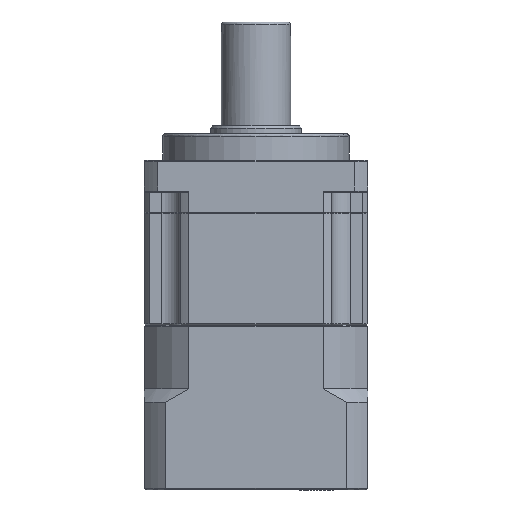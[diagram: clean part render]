
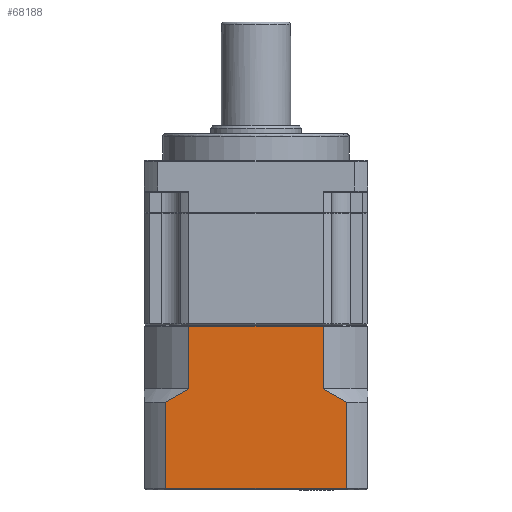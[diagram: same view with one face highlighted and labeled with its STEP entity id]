
A CAD part, front view. The second image highlights one B-rep face of the part: STEP entity #68188.
In plain terms, the highlighted planar face has unit normal (0, -1, 0).
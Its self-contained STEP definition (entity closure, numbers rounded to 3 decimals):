
#127 = EDGE_CURVE ( 'NONE', #10218, #90019, #10629, .T. ) ;
#2209 = CARTESIAN_POINT ( 'NONE',  ( 10.116, -1.757, 15.691 ) ) ;
#4229 = DIRECTION ( 'NONE',  ( -1., 0., 0. ) ) ;
#5167 = ORIENTED_EDGE ( 'NONE', *, *, #94754, .F. ) ;
#8251 = VECTOR ( 'NONE', #38600, 1000. ) ;
#10218 = VERTEX_POINT ( 'NONE', #73469 ) ;
#10629 = LINE ( 'NONE', #70481, #28095 ) ;
#10805 = DIRECTION ( 'NONE',  ( 0., 1., 0. ) ) ;
#11713 = CARTESIAN_POINT ( 'NONE',  ( 4.669, -1.757, -1.399 ) ) ;
#13759 = DIRECTION ( 'NONE',  ( -1., 0., 0. ) ) ;
#17587 = ORIENTED_EDGE ( 'NONE', *, *, #127, .F. ) ;
#19817 = CARTESIAN_POINT ( 'NONE',  ( 38.288, -1.757, 17.301 ) ) ;
#21207 = CARTESIAN_POINT ( 'NONE',  ( 8.698, -1.757, 14.801 ) ) ;
#25040 = ORIENTED_EDGE ( 'NONE', *, *, #73387, .F. ) ;
#25451 = PLANE ( 'NONE',  #26197 ) ;
#26197 = AXIS2_PLACEMENT_3D ( 'NONE', #55592, #10805, #63151 ) ;
#28095 = VECTOR ( 'NONE', #71763, 1000. ) ;
#31077 = CARTESIAN_POINT ( 'NONE',  ( 8.698, -1.757, -1.699 ) ) ;
#32186 = CARTESIAN_POINT ( 'NONE',  ( 11.561, -1.757, 16.534 ) ) ;
#32569 = ORIENTED_EDGE ( 'NONE', *, *, #74043, .F. ) ;
#34406 = VERTEX_POINT ( 'NONE', #62770 ) ;
#35387 = VECTOR ( 'NONE', #13759, 1000. ) ;
#38600 = DIRECTION ( 'NONE',  ( 0., 0., 1. ) ) ;
#38944 = VERTEX_POINT ( 'NONE', #19817 ) ;
#40260 = VECTOR ( 'NONE', #49517, 1000. ) ;
#41148 = EDGE_CURVE ( 'NONE', #46870, #38944, #60190, .T. ) ;
#43161 = CARTESIAN_POINT ( 'NONE',  ( 4.669, -1.757, 29.101 ) ) ;
#44383 = CARTESIAN_POINT ( 'NONE',  ( 42.64, -1.757, 14.801 ) ) ;
#46870 = VERTEX_POINT ( 'NONE', #53366 ) ;
#47712 = VERTEX_POINT ( 'NONE', #80641 ) ;
#49517 = DIRECTION ( 'NONE',  ( 0., 0., -1. ) ) ;
#53366 = CARTESIAN_POINT ( 'NONE',  ( 38.288, -1.757, 29.101 ) ) ;
#54016 = VERTEX_POINT ( 'NONE', #90193 ) ;
#55592 = CARTESIAN_POINT ( 'NONE',  ( 4.669, -1.757, -1.699 ) ) ;
#57410 = ORIENTED_EDGE ( 'NONE', *, *, #41148, .F. ) ;
#59753 = EDGE_LOOP ( 'NONE', ( #17587, #32569, #67333, #90633, #5167, #25040, #57410, #62460 ) ) ;
#60190 = LINE ( 'NONE', #79457, #40260 ) ;
#60272 = EDGE_CURVE ( 'NONE', #34406, #60828, #68018, .T. ) ;
#60828 = VERTEX_POINT ( 'NONE', #21207 ) ;
#62027 = CARTESIAN_POINT ( 'NONE',  ( 8.698, -1.757, 14.801 ) ) ;
#62460 = ORIENTED_EDGE ( 'NONE', *, *, #74958, .T. ) ;
#62770 = CARTESIAN_POINT ( 'NONE',  ( 8.698, -1.757, -1.399 ) ) ;
#63151 = DIRECTION ( 'NONE',  ( 1., 0., 0. ) ) ;
#66736 = CARTESIAN_POINT ( 'NONE',  ( 39.777, -1.757, 16.534 ) ) ;
#67014 = FACE_OUTER_BOUND ( 'NONE', #59753, .T. ) ;
#67333 = ORIENTED_EDGE ( 'NONE', *, *, #60272, .F. ) ;
#68018 = LINE ( 'NONE', #31077, #8251 ) ;
#68188 = ADVANCED_FACE ( 'NONE', ( #67014 ), #25451, .F. ) ;
#70481 = CARTESIAN_POINT ( 'NONE',  ( 13.05, -1.757, 17.301 ) ) ;
#71763 = DIRECTION ( 'NONE',  ( 0., 0., 1. ) ) ;
#72383 = LINE ( 'NONE', #11713, #92382 ) ;
#73387 = EDGE_CURVE ( 'NONE', #38944, #54016, #80796, .T. ) ;
#73469 = CARTESIAN_POINT ( 'NONE',  ( 13.05, -1.757, 17.301 ) ) ;
#74043 = EDGE_CURVE ( 'NONE', #60828, #10218, #79070, .T. ) ;
#74044 = CARTESIAN_POINT ( 'NONE',  ( 13.05, -1.757, 29.101 ) ) ;
#74958 = EDGE_CURVE ( 'NONE', #46870, #90019, #92992, .T. ) ;
#79070 = B_SPLINE_CURVE_WITH_KNOTS ( 'NONE', 3,
 ( #62027, #2209, #32186, #84759 ),
 .UNSPECIFIED., .F., .F.,
 ( 4, 4 ),
 ( 0., 0.005 ),
 .UNSPECIFIED. ) ;
#79457 = CARTESIAN_POINT ( 'NONE',  ( 38.288, -1.757, -1.699 ) ) ;
#80641 = CARTESIAN_POINT ( 'NONE',  ( 42.64, -1.757, -1.399 ) ) ;
#80796 = B_SPLINE_CURVE_WITH_KNOTS ( 'NONE', 3,
 ( #88792, #66736, #89447, #44383 ),
 .UNSPECIFIED., .F., .F.,
 ( 4, 4 ),
 ( 0., 0.005 ),
 .UNSPECIFIED. ) ;
#84759 = CARTESIAN_POINT ( 'NONE',  ( 13.05, -1.757, 17.301 ) ) ;
#84910 = VECTOR ( 'NONE', #86709, 1000. ) ;
#85292 = EDGE_CURVE ( 'NONE', #47712, #34406, #72383, .T. ) ;
#86709 = DIRECTION ( 'NONE',  ( 0., 0., -1. ) ) ;
#87248 = LINE ( 'NONE', #94237, #84910 ) ;
#88792 = CARTESIAN_POINT ( 'NONE',  ( 38.288, -1.757, 17.301 ) ) ;
#89447 = CARTESIAN_POINT ( 'NONE',  ( 41.222, -1.757, 15.691 ) ) ;
#90019 = VERTEX_POINT ( 'NONE', #74044 ) ;
#90193 = CARTESIAN_POINT ( 'NONE',  ( 42.64, -1.757, 14.801 ) ) ;
#90633 = ORIENTED_EDGE ( 'NONE', *, *, #85292, .F. ) ;
#92382 = VECTOR ( 'NONE', #4229, 1000. ) ;
#92992 = LINE ( 'NONE', #43161, #35387 ) ;
#94237 = CARTESIAN_POINT ( 'NONE',  ( 42.64, -1.757, -1.699 ) ) ;
#94754 = EDGE_CURVE ( 'NONE', #54016, #47712, #87248, .T. ) ;
